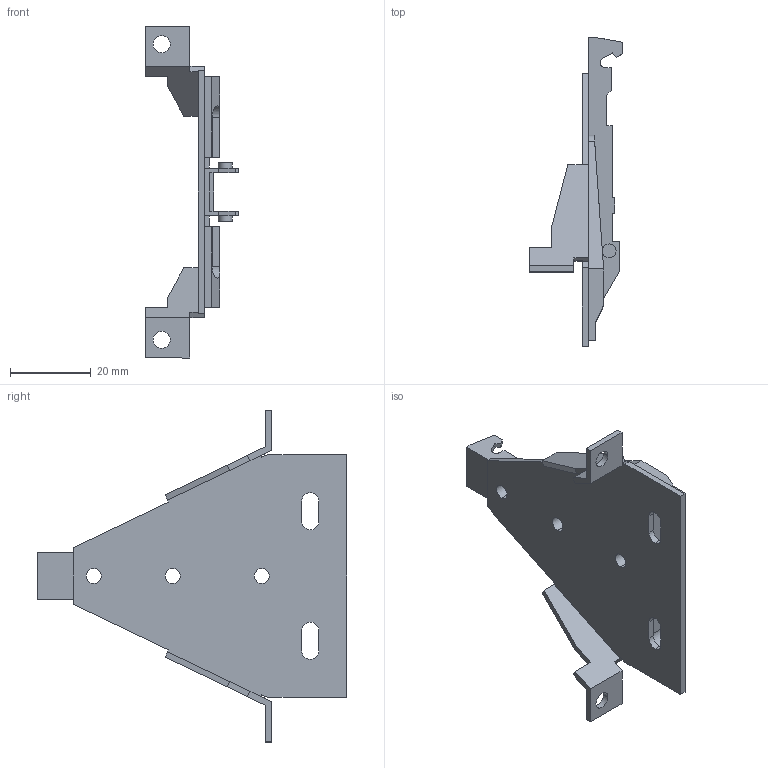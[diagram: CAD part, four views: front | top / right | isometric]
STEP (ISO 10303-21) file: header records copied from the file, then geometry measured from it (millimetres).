
FILE_DESCRIPTION (( 'STEP AP214' ), '1' );
FILE_NAME ('Eco Delta Spax Flange_H -0,5.step', '2010-11-18T10:11:55', ( 'grass' ), ( '' ), 'SwSTEP 2.0', 'SolidWorks 2010', '' );
FILE_SCHEMA (( 'AUTOMOTIVE_DESIGN' ));
Length unit declared in the file: millimetre
Products named in the file (1): Eco Delta Spax Flange_H -0,5
Bounding box: 23 x 76.45 x 82 mm (x, y, z)
Volume: 11591.9 mm3; surface area: 10093.5 mm2
Topology: 1 solids, 1 shells, 144 faces, 418 edges, 278 vertices
Faces by surface type: plane 115, cylinder 29
Entity records: 4763 total; most frequent: CARTESIAN_POINT 856, ORIENTED_EDGE 836, DIRECTION 758, EDGE_CURVE 418, VECTOR 358, LINE 358, VERTEX_POINT 278, AXIS2_PLACEMENT_3D 200
